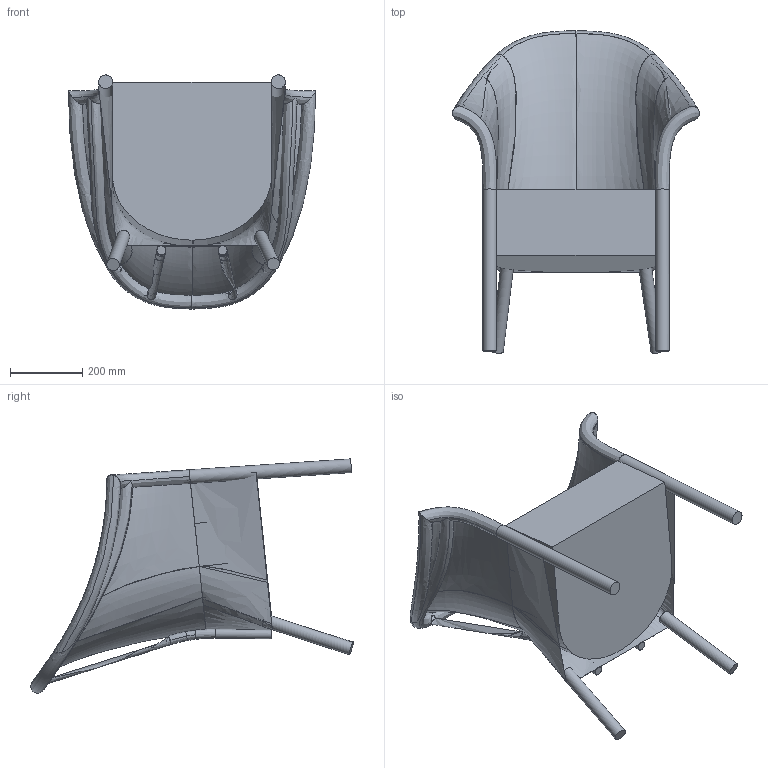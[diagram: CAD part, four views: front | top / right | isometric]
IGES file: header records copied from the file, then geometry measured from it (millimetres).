
Global section: file name: VincentSheppard_Victor; native system: unknown; preprocessor: unknown; author: ict@vincentsheppard.com; organization: unknown; date: 20180522.133004; units: millimetre
Bounding box: 683.87 x 892.19 x 648.19 mm (x, y, z)
Volume: 37849320.4 mm3; surface area: 2309284 mm2
Topology: 4 solids, 4 shells, 68 faces, 797 edges, 746 vertices
Faces by surface type: bspline 68
